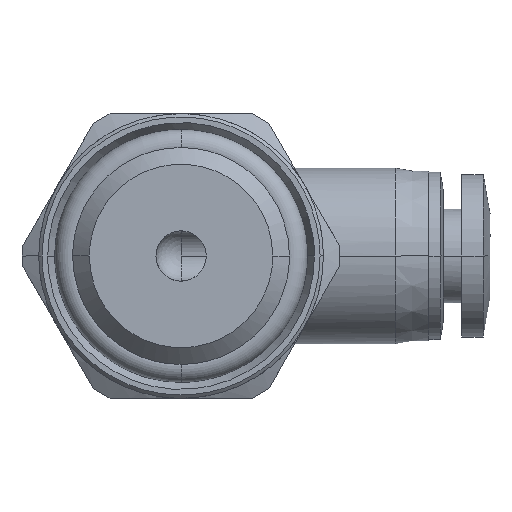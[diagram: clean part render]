
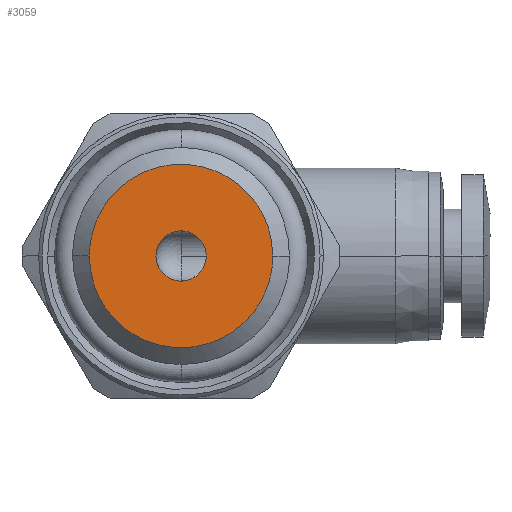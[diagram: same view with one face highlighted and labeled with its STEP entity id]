
A CAD part, front view. The second image highlights one B-rep face of the part: STEP entity #3059.
In plain terms, the highlighted planar face has unit normal (0, -1, 0).
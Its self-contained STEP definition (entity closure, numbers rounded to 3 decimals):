
#143 = CARTESIAN_POINT ( 'NONE',  ( -4.783, -12., -2.759 ) ) ;
#165 = CARTESIAN_POINT ( 'NONE',  ( -5.333, -12., 1.432 ) ) ;
#168 = CARTESIAN_POINT ( 'NONE',  ( 5.475, -12., -0.718 ) ) ;
#205 = CARTESIAN_POINT ( 'NONE',  ( -0.391, -12., -1.462 ) ) ;
#290 = CARTESIAN_POINT ( 'NONE',  ( -0.391, -12., 1.462 ) ) ;
#316 = DIRECTION ( 'NONE',  ( 0., 0., -1. ) ) ;
#320 = B_SPLINE_CURVE_WITH_KNOTS ( 'NONE', 3,
 ( #783, #807, #2177, #1523, #848, #1498, #2835, #2198, #2155, #3575, #1164, #3918, #1860, #3554, #3232, #165, #3255, #1431 ),
 .UNSPECIFIED., .F., .F.,
 ( 4, 2, 2, 2, 2, 2, 2, 2, 4 ),
 ( 0.5, 0.563, 0.625, 0.688, 0.75, 0.813, 0.875, 0.938, 1. ),
 .UNSPECIFIED. ) ;
#437 = CARTESIAN_POINT ( 'NONE',  ( -1.5, -12., 0. ) ) ;
#482 = CARTESIAN_POINT ( 'NONE',  ( -5.475, -12., -0.719 ) ) ;
#546 = CARTESIAN_POINT ( 'NONE',  ( -5.333, -12., -1.432 ) ) ;
#563 = CARTESIAN_POINT ( 'NONE',  ( -1.31, -12., -0.757 ) ) ;
#567 = CARTESIAN_POINT ( 'NONE',  ( 3.363, -12., -4.379 ) ) ;
#662 = CARTESIAN_POINT ( 'NONE',  ( 0.391, -12., 1.462 ) ) ;
#714 = CARTESIAN_POINT ( 'NONE',  ( 1.5, -12., 0. ) ) ;
#783 = CARTESIAN_POINT ( 'NONE',  ( 5.475, -12., 0. ) ) ;
#805 = CARTESIAN_POINT ( 'NONE',  ( 1.462, -12., 0.39 ) ) ;
#807 = CARTESIAN_POINT ( 'NONE',  ( 5.475, -12., 0.718 ) ) ;
#816 = B_SPLINE_CURVE_WITH_KNOTS ( 'NONE', 3,
 ( #3646, #482, #546, #143, #4265, #1907, #3278, #1863, #1253, #2885, #2609, #3984, #567, #1167, #1885, #2541, #168, #1595 ),
 .UNSPECIFIED., .F., .F.,
 ( 4, 2, 2, 2, 2, 2, 2, 2, 4 ),
 ( 0., 0.062, 0.125, 0.187, 0.25, 0.312, 0.375, 0.437, 0.5 ),
 .UNSPECIFIED. ) ;
#848 = CARTESIAN_POINT ( 'NONE',  ( 4.379, -12., 3.363 ) ) ;
#857 = VERTEX_POINT ( 'NONE', #3440 ) ;
#897 = CARTESIAN_POINT ( 'NONE',  ( 1.5, -12., -0.199 ) ) ;
#907 = EDGE_CURVE ( 'NONE', #857, #2672, #320, .T. ) ;
#920 = CARTESIAN_POINT ( 'NONE',  ( -1.5, -12., -0.199 ) ) ;
#998 = CARTESIAN_POINT ( 'NONE',  ( -0.199, -12., 1.5 ) ) ;
#1034 = CARTESIAN_POINT ( 'NONE',  ( -1.462, -12., 0.391 ) ) ;
#1054 = CARTESIAN_POINT ( 'NONE',  ( -0.92, -12., 1.201 ) ) ;
#1076 = CARTESIAN_POINT ( 'NONE',  ( 1.31, -12., 0.758 ) ) ;
#1164 = CARTESIAN_POINT ( 'NONE',  ( -1.432, -12., 5.333 ) ) ;
#1167 = CARTESIAN_POINT ( 'NONE',  ( 4.379, -12., -3.364 ) ) ;
#1205 = CARTESIAN_POINT ( 'NONE',  ( 0.757, -12., -1.31 ) ) ;
#1253 = CARTESIAN_POINT ( 'NONE',  ( -0.718, -12., -5.475 ) ) ;
#1431 = CARTESIAN_POINT ( 'NONE',  ( -5.475, -12., 0. ) ) ;
#1498 = CARTESIAN_POINT ( 'NONE',  ( 3.364, -12., 4.379 ) ) ;
#1523 = CARTESIAN_POINT ( 'NONE',  ( 4.783, -12., 2.759 ) ) ;
#1543 = CARTESIAN_POINT ( 'NONE',  ( 0.92, -12., -1.201 ) ) ;
#1595 = CARTESIAN_POINT ( 'NONE',  ( 5.475, -12., 0. ) ) ;
#1658 = EDGE_CURVE ( 'NONE', #4239, #1740, #1902, .T. ) ;
#1740 = VERTEX_POINT ( 'NONE', #437 ) ;
#1744 = ORIENTED_EDGE ( 'NONE', *, *, #907, .T. ) ;
#1817 = CARTESIAN_POINT ( 'NONE',  ( 1.5, -12., 0. ) ) ;
#1860 = CARTESIAN_POINT ( 'NONE',  ( -3.363, -12., 4.379 ) ) ;
#1863 = CARTESIAN_POINT ( 'NONE',  ( -1.432, -12., -5.333 ) ) ;
#1885 = CARTESIAN_POINT ( 'NONE',  ( 4.783, -12., -2.759 ) ) ;
#1889 = ORIENTED_EDGE ( 'NONE', *, *, #1658, .T. ) ;
#1902 = B_SPLINE_CURVE_WITH_KNOTS ( 'NONE', 3,
 ( #4306, #897, #3371, #2944, #1926, #1543, #1205, #2261, #3620, #2577, #205, #4328, #3980, #3642, #563, #3297, #920, #2284 ),
 .UNSPECIFIED., .F., .F.,
 ( 4, 2, 2, 2, 2, 2, 2, 2, 4 ),
 ( 0., 0.063, 0.125, 0.188, 0.25, 0.313, 0.375, 0.438, 0.5 ),
 .UNSPECIFIED. ) ;
#1907 = CARTESIAN_POINT ( 'NONE',  ( -3.364, -12., -4.379 ) ) ;
#1926 = CARTESIAN_POINT ( 'NONE',  ( 1.201, -12., -0.92 ) ) ;
#1950 = EDGE_CURVE ( 'NONE', #2672, #857, #816, .T. ) ;
#2029 = CARTESIAN_POINT ( 'NONE',  ( 0.757, -12., 1.31 ) ) ;
#2088 = CARTESIAN_POINT ( 'NONE',  ( -1.5, -12., 0. ) ) ;
#2155 = CARTESIAN_POINT ( 'NONE',  ( 0.718, -12., 5.475 ) ) ;
#2177 = CARTESIAN_POINT ( 'NONE',  ( 5.333, -12., 1.432 ) ) ;
#2198 = CARTESIAN_POINT ( 'NONE',  ( 1.432, -12., 5.333 ) ) ;
#2261 = CARTESIAN_POINT ( 'NONE',  ( 0.391, -12., -1.462 ) ) ;
#2284 = CARTESIAN_POINT ( 'NONE',  ( -1.5, -12., 0. ) ) ;
#2352 = FACE_BOUND ( 'NONE', #2560, .T. ) ;
#2448 = CARTESIAN_POINT ( 'NONE',  ( 1.201, -12., 0.92 ) ) ;
#2541 = CARTESIAN_POINT ( 'NONE',  ( 5.333, -12., -1.432 ) ) ;
#2560 = EDGE_LOOP ( 'NONE', ( #3669, #1889 ) ) ;
#2577 = CARTESIAN_POINT ( 'NONE',  ( -0.199, -12., -1.5 ) ) ;
#2609 = CARTESIAN_POINT ( 'NONE',  ( 1.432, -12., -5.333 ) ) ;
#2614 = B_SPLINE_CURVE_WITH_KNOTS ( 'NONE', 3,
 ( #2088, #2706, #1034, #4082, #3099, #1054, #3805, #290, #998, #3747, #662, #2029, #3401, #2448, #1076, #805, #4192, #1817 ),
 .UNSPECIFIED., .F., .F.,
 ( 4, 2, 2, 2, 2, 2, 2, 2, 4 ),
 ( 0.5, 0.563, 0.625, 0.688, 0.75, 0.813, 0.875, 0.938, 1. ),
 .UNSPECIFIED. ) ;
#2672 = VERTEX_POINT ( 'NONE', #4446 ) ;
#2706 = CARTESIAN_POINT ( 'NONE',  ( -1.5, -12., 0.199 ) ) ;
#2738 = EDGE_LOOP ( 'NONE', ( #4228, #1744 ) ) ;
#2750 = FACE_OUTER_BOUND ( 'NONE', #2738, .T. ) ;
#2835 = CARTESIAN_POINT ( 'NONE',  ( 2.759, -12., 4.783 ) ) ;
#2885 = CARTESIAN_POINT ( 'NONE',  ( 0.718, -12., -5.475 ) ) ;
#2944 = CARTESIAN_POINT ( 'NONE',  ( 1.31, -12., -0.757 ) ) ;
#3059 = ADVANCED_FACE ( 'NONE', ( #2352, #2750 ), #4066, .T. ) ;
#3099 = CARTESIAN_POINT ( 'NONE',  ( -1.201, -12., 0.92 ) ) ;
#3232 = CARTESIAN_POINT ( 'NONE',  ( -4.783, -12., 2.759 ) ) ;
#3255 = CARTESIAN_POINT ( 'NONE',  ( -5.475, -12., 0.719 ) ) ;
#3278 = CARTESIAN_POINT ( 'NONE',  ( -2.759, -12., -4.783 ) ) ;
#3297 = CARTESIAN_POINT ( 'NONE',  ( -1.462, -12., -0.391 ) ) ;
#3371 = CARTESIAN_POINT ( 'NONE',  ( 1.462, -12., -0.391 ) ) ;
#3381 = EDGE_CURVE ( 'NONE', #1740, #4239, #2614, .T. ) ;
#3401 = CARTESIAN_POINT ( 'NONE',  ( 0.92, -12., 1.201 ) ) ;
#3425 = DIRECTION ( 'NONE',  ( 0., -1., 0. ) ) ;
#3440 = CARTESIAN_POINT ( 'NONE',  ( 5.475, -12., 0. ) ) ;
#3444 = CARTESIAN_POINT ( 'NONE',  ( -2.737, -12., 0. ) ) ;
#3554 = CARTESIAN_POINT ( 'NONE',  ( -4.379, -12., 3.364 ) ) ;
#3575 = CARTESIAN_POINT ( 'NONE',  ( -0.718, -12., 5.475 ) ) ;
#3620 = CARTESIAN_POINT ( 'NONE',  ( 0.199, -12., -1.5 ) ) ;
#3642 = CARTESIAN_POINT ( 'NONE',  ( -1.201, -12., -0.92 ) ) ;
#3646 = CARTESIAN_POINT ( 'NONE',  ( -5.475, -12., 0. ) ) ;
#3669 = ORIENTED_EDGE ( 'NONE', *, *, #3381, .T. ) ;
#3747 = CARTESIAN_POINT ( 'NONE',  ( 0.199, -12., 1.5 ) ) ;
#3805 = CARTESIAN_POINT ( 'NONE',  ( -0.757, -12., 1.31 ) ) ;
#3918 = CARTESIAN_POINT ( 'NONE',  ( -2.759, -12., 4.783 ) ) ;
#3980 = CARTESIAN_POINT ( 'NONE',  ( -0.92, -12., -1.201 ) ) ;
#3984 = CARTESIAN_POINT ( 'NONE',  ( 2.759, -12., -4.783 ) ) ;
#4066 = PLANE ( 'NONE',  #4245 ) ;
#4082 = CARTESIAN_POINT ( 'NONE',  ( -1.31, -12., 0.757 ) ) ;
#4192 = CARTESIAN_POINT ( 'NONE',  ( 1.5, -12., 0.199 ) ) ;
#4228 = ORIENTED_EDGE ( 'NONE', *, *, #1950, .T. ) ;
#4239 = VERTEX_POINT ( 'NONE', #714 ) ;
#4245 = AXIS2_PLACEMENT_3D ( 'NONE', #3444, #3425, #316 ) ;
#4265 = CARTESIAN_POINT ( 'NONE',  ( -4.379, -12., -3.363 ) ) ;
#4306 = CARTESIAN_POINT ( 'NONE',  ( 1.5, -12., 0. ) ) ;
#4328 = CARTESIAN_POINT ( 'NONE',  ( -0.757, -12., -1.31 ) ) ;
#4446 = CARTESIAN_POINT ( 'NONE',  ( -5.475, -12., 0. ) ) ;
